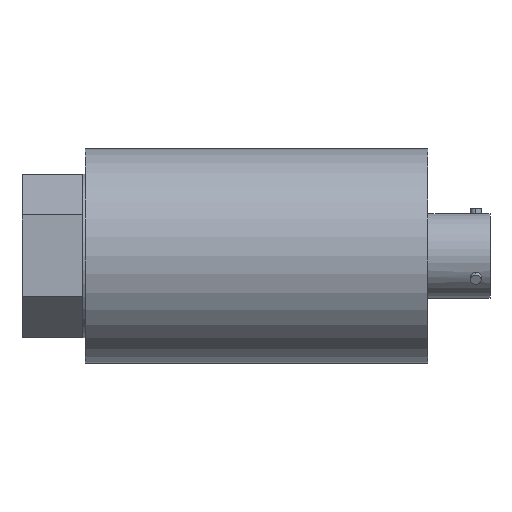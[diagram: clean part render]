
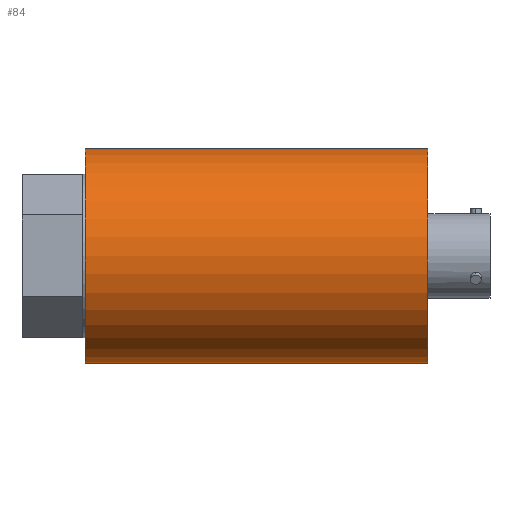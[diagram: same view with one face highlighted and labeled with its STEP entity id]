
A CAD part, top view. The second image highlights one B-rep face of the part: STEP entity #84.
In plain terms, the highlighted cylindrical face has radius 19.05 mm (diameter 38.1 mm), a partial arc.
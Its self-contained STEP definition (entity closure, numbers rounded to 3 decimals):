
#84=ADVANCED_FACE('',(#218),#219,.T.);
#218=FACE_OUTER_BOUND('',#409,.T.);
#219=CYLINDRICAL_SURFACE('',#410,19.05);
#409=EDGE_LOOP('',(#603,#604,#605,#606));
#410=AXIS2_PLACEMENT_3D('',#607,#608,#609);
#603=ORIENTED_EDGE('',*,*,#1083,.F.);
#604=ORIENTED_EDGE('',*,*,#1084,.T.);
#605=ORIENTED_EDGE('',*,*,#1085,.F.);
#606=ORIENTED_EDGE('',*,*,#1086,.F.);
#607=CARTESIAN_POINT('',(41.55,0.0,0.0));
#608=DIRECTION('',(-1.0,0.0,0.0));
#609=DIRECTION('',(0.0,1.0,0.0));
#1083=EDGE_CURVE('',#1277,#1278,#1279,.T.);
#1084=EDGE_CURVE('',#1277,#1280,#1281,.T.);
#1085=EDGE_CURVE('',#1282,#1280,#1283,.T.);
#1086=EDGE_CURVE('',#1278,#1282,#1284,.T.);
#1277=VERTEX_POINT('',#1617);
#1278=VERTEX_POINT('',#1618);
#1279=LINE('',#1619,#1620);
#1280=VERTEX_POINT('',#1621);
#1281=CIRCLE('',#1622,19.05);
#1282=VERTEX_POINT('',#1623);
#1283=LINE('',#1624,#1625);
#1284=CIRCLE('',#1626,19.05);
#1617=CARTESIAN_POINT('',(11.2,19.05,0.0));
#1618=CARTESIAN_POINT('',(71.9,19.05,0.0));
#1619=CARTESIAN_POINT('',(41.55,19.05,0.));
#1620=VECTOR('',#1995,1.0);
#1621=CARTESIAN_POINT('',(11.2,-19.05,0.));
#1622=AXIS2_PLACEMENT_3D('',#1996,#1997,#1998);
#1623=CARTESIAN_POINT('',(71.9,-19.05,0.));
#1624=CARTESIAN_POINT('',(41.55,-19.05,0.));
#1625=VECTOR('',#1999,1.0);
#1626=AXIS2_PLACEMENT_3D('',#2000,#2001,#2002);
#1995=DIRECTION('',(1.0,-0.0,-0.0));
#1996=CARTESIAN_POINT('',(11.2,0.0,0.0));
#1997=DIRECTION('',(1.0,0.0,0.0));
#1998=DIRECTION('',(0.0,1.0,0.0));
#1999=DIRECTION('',(-1.0,0.0,0.0));
#2000=CARTESIAN_POINT('',(71.9,0.0,0.0));
#2001=DIRECTION('',(1.0,0.0,0.0));
#2002=DIRECTION('',(0.0,1.0,0.0));
